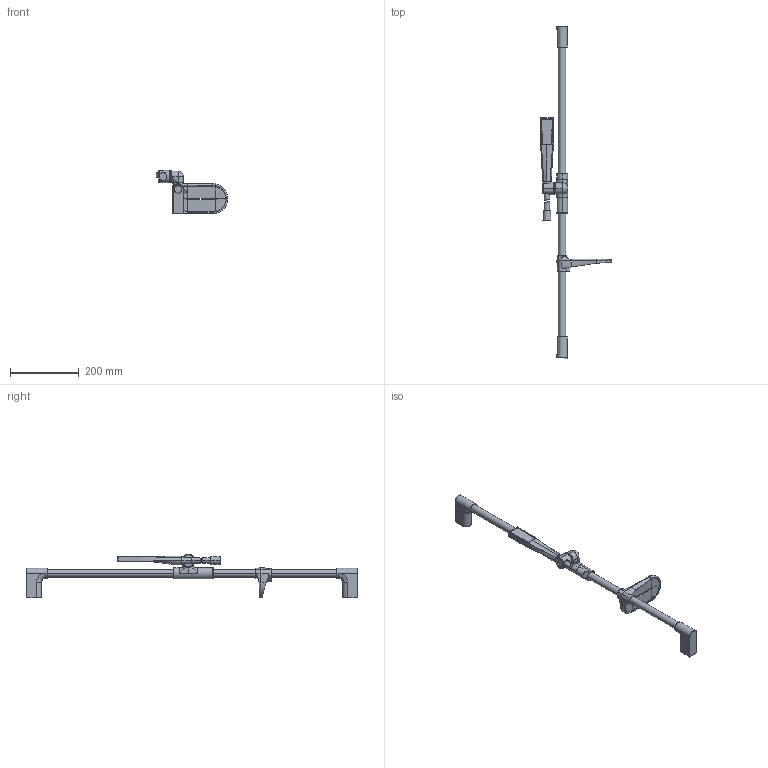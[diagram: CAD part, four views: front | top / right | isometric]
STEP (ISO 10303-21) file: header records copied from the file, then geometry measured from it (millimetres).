
FILE_DESCRIPTION (( 'STEP AP203' ), '1' );
FILE_NAME ('47150120(2024).STEP', '2024-04-17T10:02:32', ( '' ), ( '' ), 'SwSTEP 2.0', 'SolidWorks 2016', '' );
FILE_SCHEMA (( 'CONFIG_CONTROL_DESIGN' ));
Length unit declared in the file: millimetre
Products named in the file (1): 47150120(2024)
Bounding box: 209.03 x 967.42 x 127.2 mm (x, y, z)
Volume: 981877 mm3; surface area: 185270.5 mm2
Topology: 10 solids, 10 shells, 369 faces, 871 edges, 522 vertices
Faces by surface type: bspline 238, plane 40, cylinder 36, sphere 22, cone 20, torus 13
Entity records: 46517 total; most frequent: CARTESIAN_POINT 39645, ORIENTED_EDGE 1740, DIRECTION 976, EDGE_CURVE 870, VERTEX_POINT 522, AXIS2_PLACEMENT_3D 433, B_SPLINE_CURVE_WITH_KNOTS 405, EDGE_LOOP 372
